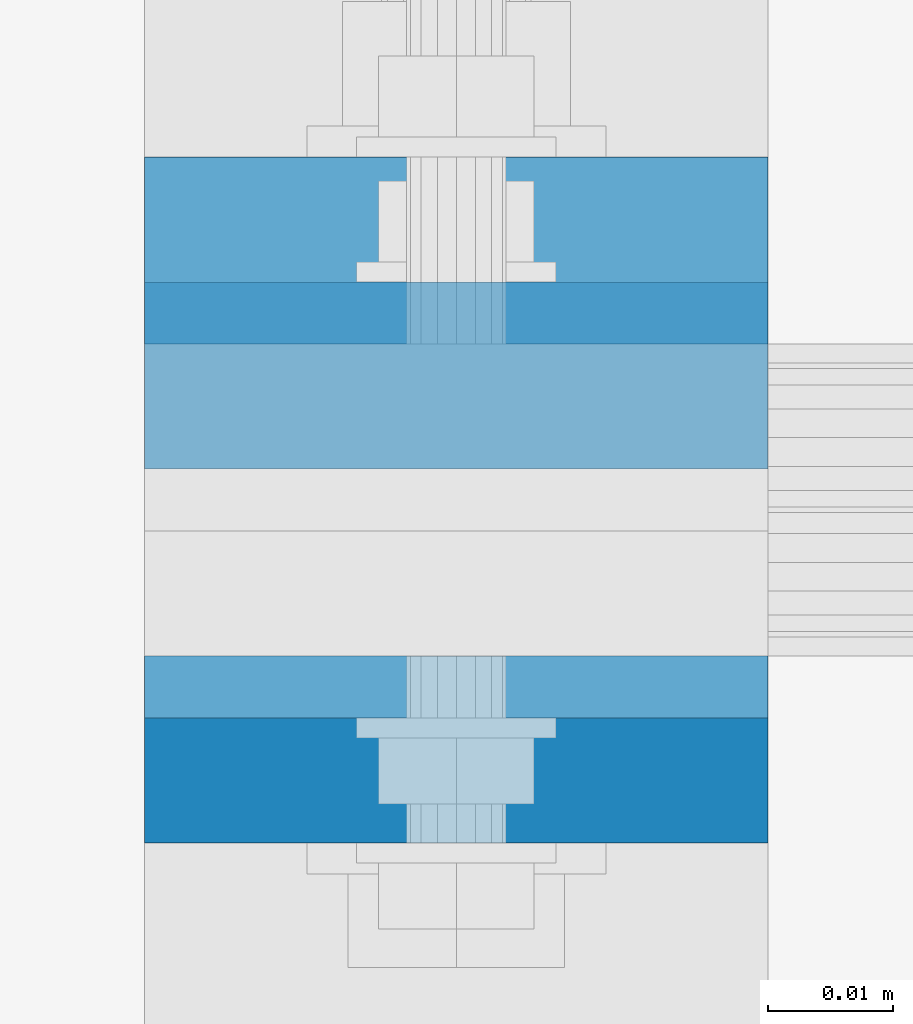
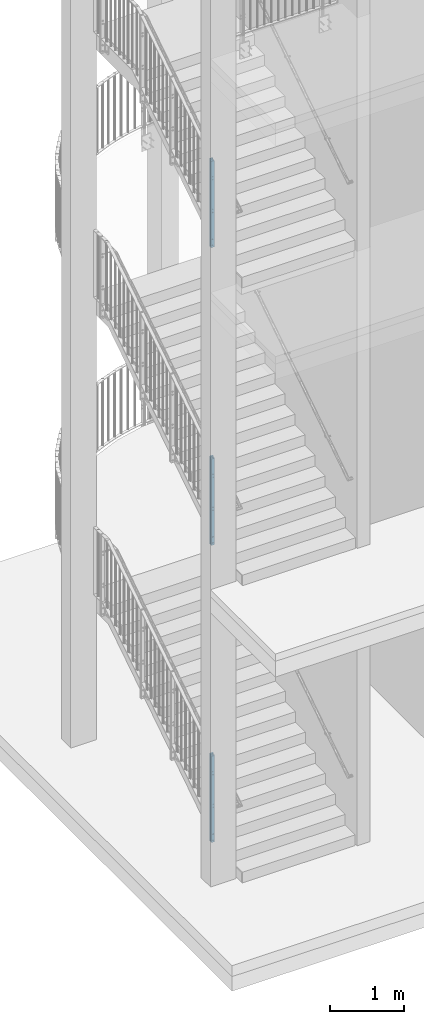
# One storey, part 6 of 296: 6 columns, 36 openings.
"""IFC2X3 building model written with IfcOpenShell, lengths in millimetres."""

from ifc_helpers import new_model, entity, si_unit, converted_unit, frame, frame_2d, origin, origin_with_axes, origin_2d, place, context, project, spatial, rectangle, circle, extrude, clip, halfspace, material, element, save


model = new_model("IFC2X3")

# Units and contexts
model_context = context("Model", 3, precision=1e-09, world=origin_with_axes())
ifc_project = project(units=[si_unit("LENGTHUNIT", "METRE", prefix="MILLI"), si_unit("AREAUNIT", "SQUARE_METRE"), si_unit("VOLUMEUNIT", "CUBIC_METRE"), converted_unit("PLANEANGLEUNIT", "DEGREE", entity("IfcPlaneAngleMeasure", 0.01745329), si_unit("PLANEANGLEUNIT", "RADIAN"), dimensions=[0, 0, 0, 0, 0, 0, 0])], contexts=[model_context])

# Site, building, storey
site_placement = place(None, origin_with_axes())
site = spatial("IfcSite", under=ifc_project, at=site_placement, Name="TZD-S?d | Treppenhausgel?nder", CompositionType="ELEMENT")
building_placement = place(site_placement, origin_with_axes())
building = spatial("IfcBuilding", under=site, at=building_placement, Name="Struktur 1", CompositionType="ELEMENT")
storey_placement = place(building_placement, origin_with_axes())
storey = spatial("IfcBuildingStorey", under=building, at=storey_placement, Name="Default Storey", CompositionType="ELEMENT", Elevation=0.0)

# Column, openings
ifc_material = material(Name="S235JR")
column_1_placement = place(None, frame((-45.0, -3435.0, 10079.999), z_axis=(0.0, 0.0, -1.0), x_axis=(0.0, -1.0, 0.0)))
column_1 = element("IfcColumn", 1, at=column_1_placement, inside=storey, material=ifc_material, Name="-", ObjectType="-", context=model_context, shape_type="Clipping", body=[
    clip(extrude(rectangle(XDim=15.0, YDim=50.0, at=origin_2d()), origin(), (0.0, 0.0, -1.0), 1477.711905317), halfspace(frame((2838.128925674, -45.0, 390.908189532), z_axis=(-0.543478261, 0.0, 0.839423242), x_axis=(0.0, 1.0, 0.0)), True)),
])
opening_1_placement = place(column_1_placement, frame((-8.0, 0.0, -599.999999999), z_axis=(1.0, 0.0, 0.0), x_axis=(0.0, -1.0, 0.0)))
element("IfcOpeningElement", 2, at=opening_1_placement, cuts=column_1, ObjectType="Opening", context=model_context, shape_type="SweptSolid", body=[
    extrude(circle(Radius=5.001, at=frame_2d((0.0, 25.0), x_axis=(1.0, 0.0))), origin(), (0.0, 0.0, 1.0), 16.0),
])
opening_2_placement = place(column_1_placement, frame((-8.0, 0.0, -599.999999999), z_axis=(1.0, 0.0, 0.0), x_axis=(0.0, -1.0, 0.0)))
element("IfcOpeningElement", 3, at=opening_2_placement, cuts=column_1, ObjectType="Opening", context=model_context, shape_type="SweptSolid", body=[
    extrude(circle(Radius=5.001, at=frame_2d((0.0, -25.0), x_axis=(1.0, 0.0))), origin(), (0.0, 0.0, 1.0), 16.0),
])
opening_3_placement = place(column_1_placement, frame((-8.0, 0.0, -85.0), z_axis=(1.0, 0.0, 0.0), x_axis=(0.0, -1.0, 0.0)))
element("IfcOpeningElement", 4, at=opening_3_placement, cuts=column_1, ObjectType="Opening", context=model_context, shape_type="SweptSolid", body=[
    extrude(circle(Radius=7.001, at=frame_2d((0.0, 50.0), x_axis=(1.0, 0.0))), origin(), (0.0, 0.0, 1.0), 16.0),
])
opening_4_placement = place(column_1_placement, frame((-8.0, 0.0, -85.0), z_axis=(1.0, 0.0, 0.0), x_axis=(0.0, -1.0, 0.0)))
element("IfcOpeningElement", 5, at=opening_4_placement, cuts=column_1, ObjectType="Opening", context=model_context, shape_type="SweptSolid", body=[
    extrude(circle(Radius=7.001, at=frame_2d((0.0, -50.0), x_axis=(1.0, 0.0))), origin(), (0.0, 0.0, 1.0), 16.0),
])
opening_5_placement = place(column_1_placement, frame((-8.0, 0.0, -1139.405965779), z_axis=(1.0, 0.0, 0.0), x_axis=(0.0, -1.0, 0.0)))
element("IfcOpeningElement", 6, at=opening_5_placement, cuts=column_1, ObjectType="Opening", context=model_context, shape_type="SweptSolid", body=[
    extrude(circle(Radius=5.001, at=frame_2d((0.0, 25.0), x_axis=(1.0, 0.0))), origin(), (0.0, 0.0, 1.0), 16.0),
])
opening_6_placement = place(column_1_placement, frame((-8.0, 0.0, -1139.405965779), z_axis=(1.0, 0.0, 0.0), x_axis=(0.0, -1.0, 0.0)))
element("IfcOpeningElement", 7, at=opening_6_placement, cuts=column_1, ObjectType="Opening", context=model_context, shape_type="SweptSolid", body=[
    extrude(circle(Radius=5.001, at=frame_2d((0.0, -25.0), x_axis=(1.0, 0.0))), origin(), (0.0, 0.0, 1.0), 16.0),
])

column_2_placement = place(None, frame((-45.0, -3465.0, 10079.999), z_axis=(0.0, 0.0, 1.0), x_axis=(0.0, 1.0, 0.0)))
column_2 = element("IfcColumn", 8, at=column_2_placement, inside=storey, material=ifc_material, Name="-", ObjectType="-", context=model_context, shape_type="Clipping", body=[
    clip(extrude(rectangle(XDim=15.0, YDim=50.0, at=origin_2d()), origin(), (0.0, 0.0, 1.0), 1458.288631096), halfspace(frame((-2808.128925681, -45.0, -390.90818954), z_axis=(0.543478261, 0.0, -0.839423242), x_axis=(0.0, 1.0, 0.0)), True)),
])
opening_7_placement = place(column_2_placement, frame((8.0, 0.0, 85.0), z_axis=(-1.0, 0.0, 0.0), x_axis=(0.0, -1.0, 0.0)))
element("IfcOpeningElement", 9, at=opening_7_placement, cuts=column_2, ObjectType="Opening", context=model_context, shape_type="SweptSolid", body=[
    extrude(circle(Radius=7.001, at=frame_2d((0.0, 50.0), x_axis=(1.0, 0.0))), origin(), (0.0, 0.0, 1.0), 16.0),
])
opening_8_placement = place(column_2_placement, frame((8.0, 0.0, 85.0), z_axis=(-1.0, 0.0, 0.0), x_axis=(0.0, -1.0, 0.0)))
element("IfcOpeningElement", 10, at=opening_8_placement, cuts=column_2, ObjectType="Opening", context=model_context, shape_type="SweptSolid", body=[
    extrude(circle(Radius=7.001, at=frame_2d((0.0, -50.0), x_axis=(1.0, 0.0))), origin(), (0.0, 0.0, 1.0), 16.0),
])
opening_9_placement = place(column_2_placement, frame((8.0, 0.0, 599.999999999), z_axis=(-1.0, 0.0, 0.0), x_axis=(0.0, -1.0, 0.0)))
element("IfcOpeningElement", 11, at=opening_9_placement, cuts=column_2, ObjectType="Opening", context=model_context, shape_type="SweptSolid", body=[
    extrude(circle(Radius=5.001, at=frame_2d((0.0, 25.0), x_axis=(1.0, 0.0))), origin(), (0.0, 0.0, 1.0), 16.0),
])
opening_10_placement = place(column_2_placement, frame((8.0, 0.0, 599.999999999), z_axis=(-1.0, 0.0, 0.0), x_axis=(0.0, -1.0, 0.0)))
element("IfcOpeningElement", 12, at=opening_10_placement, cuts=column_2, ObjectType="Opening", context=model_context, shape_type="SweptSolid", body=[
    extrude(circle(Radius=5.001, at=frame_2d((0.0, -25.0), x_axis=(1.0, 0.0))), origin(), (0.0, 0.0, 1.0), 16.0),
])
opening_11_placement = place(column_2_placement, frame((8.0, 0.0, 1139.405965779), z_axis=(-1.0, 0.0, 0.0), x_axis=(0.0, -1.0, 0.0)))
element("IfcOpeningElement", 13, at=opening_11_placement, cuts=column_2, ObjectType="Opening", context=model_context, shape_type="SweptSolid", body=[
    extrude(circle(Radius=5.001, at=frame_2d((0.0, 25.0), x_axis=(1.0, 0.0))), origin(), (0.0, 0.0, 1.0), 16.0),
])
opening_12_placement = place(column_2_placement, frame((8.0, 0.0, 1139.405965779), z_axis=(-1.0, 0.0, 0.0), x_axis=(0.0, -1.0, 0.0)))
element("IfcOpeningElement", 14, at=opening_12_placement, cuts=column_2, ObjectType="Opening", context=model_context, shape_type="SweptSolid", body=[
    extrude(circle(Radius=5.001, at=frame_2d((0.0, -25.0), x_axis=(1.0, 0.0))), origin(), (0.0, 0.0, 1.0), 16.0),
])

column_3_placement = place(None, frame((-45.0, -3445.0, 5180.001), z_axis=(0.0, 0.0, -1.0), x_axis=(0.0, -1.0, 0.0)))
column_3 = element("IfcColumn", 15, at=column_3_placement, inside=storey, material=ifc_material, Name="-", ObjectType="-", context=model_context, shape_type="Clipping", body=[
    clip(extrude(rectangle(XDim=15.0, YDim=50.0, at=origin_2d()), origin(), (0.0, 0.0, -1.0), 1479.216050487), halfspace(frame((587.321061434, -45.0, -1069.179739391), z_axis=(-0.542183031, 0.0, 0.840260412), x_axis=(0.0, 1.0, 0.0)), True)),
])
opening_13_placement = place(column_3_placement, frame((-8.0, 0.0, -599.999999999), z_axis=(1.0, 0.0, 0.0), x_axis=(0.0, -1.0, 0.0)))
element("IfcOpeningElement", 16, at=opening_13_placement, cuts=column_3, ObjectType="Opening", context=model_context, shape_type="SweptSolid", body=[
    extrude(circle(Radius=5.001, at=frame_2d((0.0, 25.0), x_axis=(1.0, 0.0))), origin(), (0.0, 0.0, 1.0), 16.0),
])
opening_14_placement = place(column_3_placement, frame((-8.0, 0.0, -599.999999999), z_axis=(1.0, 0.0, 0.0), x_axis=(0.0, -1.0, 0.0)))
element("IfcOpeningElement", 17, at=opening_14_placement, cuts=column_3, ObjectType="Opening", context=model_context, shape_type="SweptSolid", body=[
    extrude(circle(Radius=5.001, at=frame_2d((0.0, -25.0), x_axis=(1.0, 0.0))), origin(), (0.0, 0.0, 1.0), 16.0),
])
opening_15_placement = place(column_3_placement, frame((-8.0, 0.0, -85.0), z_axis=(1.0, 0.0, 0.0), x_axis=(0.0, -1.0, 0.0)))
element("IfcOpeningElement", 18, at=opening_15_placement, cuts=column_3, ObjectType="Opening", context=model_context, shape_type="SweptSolid", body=[
    extrude(circle(Radius=7.001, at=frame_2d((0.0, 50.0), x_axis=(1.0, 0.0))), origin(), (0.0, 0.0, 1.0), 16.0),
])
opening_16_placement = place(column_3_placement, frame((-8.0, 0.0, -85.0), z_axis=(1.0, 0.0, 0.0), x_axis=(0.0, -1.0, 0.0)))
element("IfcOpeningElement", 19, at=opening_16_placement, cuts=column_3, ObjectType="Opening", context=model_context, shape_type="SweptSolid", body=[
    extrude(circle(Radius=7.001, at=frame_2d((0.0, -50.0), x_axis=(1.0, 0.0))), origin(), (0.0, 0.0, 1.0), 16.0),
])
opening_17_placement = place(column_3_placement, frame((-8.0, 0.0, -1140.998562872), z_axis=(1.0, 0.0, 0.0), x_axis=(0.0, -1.0, 0.0)))
element("IfcOpeningElement", 20, at=opening_17_placement, cuts=column_3, ObjectType="Opening", context=model_context, shape_type="SweptSolid", body=[
    extrude(circle(Radius=5.001, at=frame_2d((0.0, 25.0), x_axis=(1.0, 0.0))), origin(), (0.0, 0.0, 1.0), 16.0),
])
opening_18_placement = place(column_3_placement, frame((-8.0, 0.0, -1140.998562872), z_axis=(1.0, 0.0, 0.0), x_axis=(0.0, -1.0, 0.0)))
element("IfcOpeningElement", 21, at=opening_18_placement, cuts=column_3, ObjectType="Opening", context=model_context, shape_type="SweptSolid", body=[
    extrude(circle(Radius=5.001, at=frame_2d((0.0, -25.0), x_axis=(1.0, 0.0))), origin(), (0.0, 0.0, 1.0), 16.0),
])

column_4_placement = place(None, frame((-45.0, -3475.0, 5180.001), z_axis=(0.0, 0.0, 1.0), x_axis=(0.0, 1.0, 0.0)))
column_4 = element("IfcColumn", 22, at=column_4_placement, inside=storey, material=ifc_material, Name="-", ObjectType="-", context=model_context, shape_type="Clipping", body=[
    clip(extrude(rectangle(XDim=15.0, YDim=50.0, at=origin_2d()), origin(), (0.0, 0.0, 1.0), 1459.858371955), halfspace(frame((-557.321061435, -45.0, 1069.17973939), z_axis=(0.542183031, 0.0, -0.840260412), x_axis=(0.0, 1.0, 0.0)), True)),
])
opening_19_placement = place(column_4_placement, frame((8.0, 0.0, 599.999999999), z_axis=(-1.0, 0.0, 0.0), x_axis=(0.0, -1.0, 0.0)))
element("IfcOpeningElement", 23, at=opening_19_placement, cuts=column_4, ObjectType="Opening", context=model_context, shape_type="SweptSolid", body=[
    extrude(circle(Radius=5.001, at=frame_2d((0.0, 25.0), x_axis=(1.0, 0.0))), origin(), (0.0, 0.0, 1.0), 16.0),
])
opening_20_placement = place(column_4_placement, frame((8.0, 0.0, 599.999999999), z_axis=(-1.0, 0.0, 0.0), x_axis=(0.0, -1.0, 0.0)))
element("IfcOpeningElement", 24, at=opening_20_placement, cuts=column_4, ObjectType="Opening", context=model_context, shape_type="SweptSolid", body=[
    extrude(circle(Radius=5.001, at=frame_2d((0.0, -25.0), x_axis=(1.0, 0.0))), origin(), (0.0, 0.0, 1.0), 16.0),
])
opening_21_placement = place(column_4_placement, frame((8.0, 0.0, 85.0), z_axis=(-1.0, 0.0, 0.0), x_axis=(0.0, -1.0, 0.0)))
element("IfcOpeningElement", 25, at=opening_21_placement, cuts=column_4, ObjectType="Opening", context=model_context, shape_type="SweptSolid", body=[
    extrude(circle(Radius=7.001, at=frame_2d((0.0, 50.0), x_axis=(1.0, 0.0))), origin(), (0.0, 0.0, 1.0), 16.0),
])
opening_22_placement = place(column_4_placement, frame((8.0, 0.0, 85.0), z_axis=(-1.0, 0.0, 0.0), x_axis=(0.0, -1.0, 0.0)))
element("IfcOpeningElement", 26, at=opening_22_placement, cuts=column_4, ObjectType="Opening", context=model_context, shape_type="SweptSolid", body=[
    extrude(circle(Radius=7.001, at=frame_2d((0.0, -50.0), x_axis=(1.0, 0.0))), origin(), (0.0, 0.0, 1.0), 16.0),
])
opening_23_placement = place(column_4_placement, frame((8.0, 0.0, 1140.998562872), z_axis=(-1.0, 0.0, 0.0), x_axis=(0.0, -1.0, 0.0)))
element("IfcOpeningElement", 27, at=opening_23_placement, cuts=column_4, ObjectType="Opening", context=model_context, shape_type="SweptSolid", body=[
    extrude(circle(Radius=5.001, at=frame_2d((0.0, 25.0), x_axis=(1.0, 0.0))), origin(), (0.0, 0.0, 1.0), 16.0),
])
opening_24_placement = place(column_4_placement, frame((8.0, 0.0, 1140.998562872), z_axis=(-1.0, 0.0, 0.0), x_axis=(0.0, -1.0, 0.0)))
element("IfcOpeningElement", 28, at=opening_24_placement, cuts=column_4, ObjectType="Opening", context=model_context, shape_type="SweptSolid", body=[
    extrude(circle(Radius=5.001, at=frame_2d((0.0, -25.0), x_axis=(1.0, 0.0))), origin(), (0.0, 0.0, 1.0), 16.0),
])

column_5_placement = place(None, frame((-45.0, -3445.0, 280.001), z_axis=(0.0, 0.0, -1.0), x_axis=(0.0, -1.0, 0.0)))
column_5 = element("IfcColumn", 29, at=column_5_placement, inside=storey, material=ifc_material, Name="-", ObjectType="-", context=model_context, shape_type="Clipping", body=[
    clip(extrude(rectangle(XDim=15.0, YDim=50.0, at=origin_2d()), origin(), (0.0, 0.0, -1.0), 1479.142080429), halfspace(frame((-1635.534388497, -45.0, -2509.101957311), z_axis=(-0.544258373, 0.0, 0.83891765), x_axis=(0.0, 1.0, 0.0)), True)),
])
opening_25_placement = place(column_5_placement, frame((-8.0, 0.0, -85.0), z_axis=(1.0, 0.0, 0.0), x_axis=(0.0, -1.0, 0.0)))
element("IfcOpeningElement", 30, at=opening_25_placement, cuts=column_5, ObjectType="Opening", context=model_context, shape_type="SweptSolid", body=[
    extrude(circle(Radius=7.001, at=frame_2d((0.0, 50.0), x_axis=(1.0, 0.0))), origin(), (0.0, 0.0, 1.0), 16.0),
])
opening_26_placement = place(column_5_placement, frame((-8.0, 0.0, -85.0), z_axis=(1.0, 0.0, 0.0), x_axis=(0.0, -1.0, 0.0)))
element("IfcOpeningElement", 31, at=opening_26_placement, cuts=column_5, ObjectType="Opening", context=model_context, shape_type="SweptSolid", body=[
    extrude(circle(Radius=7.001, at=frame_2d((0.0, -50.0), x_axis=(1.0, 0.0))), origin(), (0.0, 0.0, 1.0), 16.0),
])
opening_27_placement = place(column_5_placement, frame((-8.0, 0.0, -599.999999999), z_axis=(1.0, 0.0, 0.0), x_axis=(0.0, -1.0, 0.0)))
element("IfcOpeningElement", 32, at=opening_27_placement, cuts=column_5, ObjectType="Opening", context=model_context, shape_type="SweptSolid", body=[
    extrude(circle(Radius=5.001, at=frame_2d((0.0, 25.0), x_axis=(1.0, 0.0))), origin(), (0.0, 0.0, 1.0), 16.0),
])
opening_28_placement = place(column_5_placement, frame((-8.0, 0.0, -599.999999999), z_axis=(1.0, 0.0, 0.0), x_axis=(0.0, -1.0, 0.0)))
element("IfcOpeningElement", 33, at=opening_28_placement, cuts=column_5, ObjectType="Opening", context=model_context, shape_type="SweptSolid", body=[
    extrude(circle(Radius=5.001, at=frame_2d((0.0, -25.0), x_axis=(1.0, 0.0))), origin(), (0.0, 0.0, 1.0), 16.0),
])
opening_29_placement = place(column_5_placement, frame((-8.0, 0.0, -1140.782661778), z_axis=(1.0, 0.0, 0.0), x_axis=(0.0, -1.0, 0.0)))
element("IfcOpeningElement", 34, at=opening_29_placement, cuts=column_5, ObjectType="Opening", context=model_context, shape_type="SweptSolid", body=[
    extrude(circle(Radius=5.001, at=frame_2d((0.0, 25.0), x_axis=(1.0, 0.0))), origin(), (0.0, 0.0, 1.0), 16.0),
])
opening_30_placement = place(column_5_placement, frame((-8.0, 0.0, -1140.782661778), z_axis=(1.0, 0.0, 0.0), x_axis=(0.0, -1.0, 0.0)))
element("IfcOpeningElement", 35, at=opening_30_placement, cuts=column_5, ObjectType="Opening", context=model_context, shape_type="SweptSolid", body=[
    extrude(circle(Radius=5.001, at=frame_2d((0.0, -25.0), x_axis=(1.0, 0.0))), origin(), (0.0, 0.0, 1.0), 16.0),
])

column_6_placement = place(None, frame((-45.0, -3475.0, 280.001), z_axis=(0.0, 0.0, 1.0), x_axis=(0.0, 1.0, 0.0)))
column_6 = element("IfcColumn", 36, at=column_6_placement, inside=storey, material=ifc_material, Name="-", ObjectType="-", context=model_context, shape_type="Clipping", body=[
    clip(extrude(rectangle(XDim=15.0, YDim=50.0, at=origin_2d()), origin(), (0.0, 0.0, 1.0), 1459.679203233), halfspace(frame((1665.534388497, -45.0, 2509.101957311), z_axis=(0.544258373, 0.0, -0.83891765), x_axis=(0.0, 1.0, 0.0)), True)),
])
opening_31_placement = place(column_6_placement, frame((8.0, 0.0, 599.999999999), z_axis=(-1.0, 0.0, 0.0), x_axis=(0.0, -1.0, 0.0)))
element("IfcOpeningElement", 37, at=opening_31_placement, cuts=column_6, ObjectType="Opening", context=model_context, shape_type="SweptSolid", body=[
    extrude(circle(Radius=5.001, at=frame_2d((0.0, 25.0), x_axis=(1.0, 0.0))), origin(), (0.0, 0.0, 1.0), 16.0),
])
opening_32_placement = place(column_6_placement, frame((8.0, 0.0, 599.999999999), z_axis=(-1.0, 0.0, 0.0), x_axis=(0.0, -1.0, 0.0)))
element("IfcOpeningElement", 38, at=opening_32_placement, cuts=column_6, ObjectType="Opening", context=model_context, shape_type="SweptSolid", body=[
    extrude(circle(Radius=5.001, at=frame_2d((0.0, -25.0), x_axis=(1.0, 0.0))), origin(), (0.0, 0.0, 1.0), 16.0),
])
opening_33_placement = place(column_6_placement, frame((8.0, 0.0, 85.0), z_axis=(-1.0, 0.0, 0.0), x_axis=(0.0, -1.0, 0.0)))
element("IfcOpeningElement", 39, at=opening_33_placement, cuts=column_6, ObjectType="Opening", context=model_context, shape_type="SweptSolid", body=[
    extrude(circle(Radius=7.001, at=frame_2d((0.0, 50.0), x_axis=(1.0, 0.0))), origin(), (0.0, 0.0, 1.0), 16.0),
])
opening_34_placement = place(column_6_placement, frame((8.0, 0.0, 85.0), z_axis=(-1.0, 0.0, 0.0), x_axis=(0.0, -1.0, 0.0)))
element("IfcOpeningElement", 40, at=opening_34_placement, cuts=column_6, ObjectType="Opening", context=model_context, shape_type="SweptSolid", body=[
    extrude(circle(Radius=7.001, at=frame_2d((0.0, -50.0), x_axis=(1.0, 0.0))), origin(), (0.0, 0.0, 1.0), 16.0),
])
opening_35_placement = place(column_6_placement, frame((8.0, 0.0, 1140.782661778), z_axis=(-1.0, 0.0, 0.0), x_axis=(0.0, -1.0, 0.0)))
element("IfcOpeningElement", 41, at=opening_35_placement, cuts=column_6, ObjectType="Opening", context=model_context, shape_type="SweptSolid", body=[
    extrude(circle(Radius=5.001, at=frame_2d((0.0, 25.0), x_axis=(1.0, 0.0))), origin(), (0.0, 0.0, 1.0), 16.0),
])
opening_36_placement = place(column_6_placement, frame((8.0, 0.0, 1140.782661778), z_axis=(-1.0, 0.0, 0.0), x_axis=(0.0, -1.0, 0.0)))
element("IfcOpeningElement", 42, at=opening_36_placement, cuts=column_6, ObjectType="Opening", context=model_context, shape_type="SweptSolid", body=[
    extrude(circle(Radius=5.001, at=frame_2d((0.0, -25.0), x_axis=(1.0, 0.0))), origin(), (0.0, 0.0, 1.0), 16.0),
])

save(model, "model.ifc")
